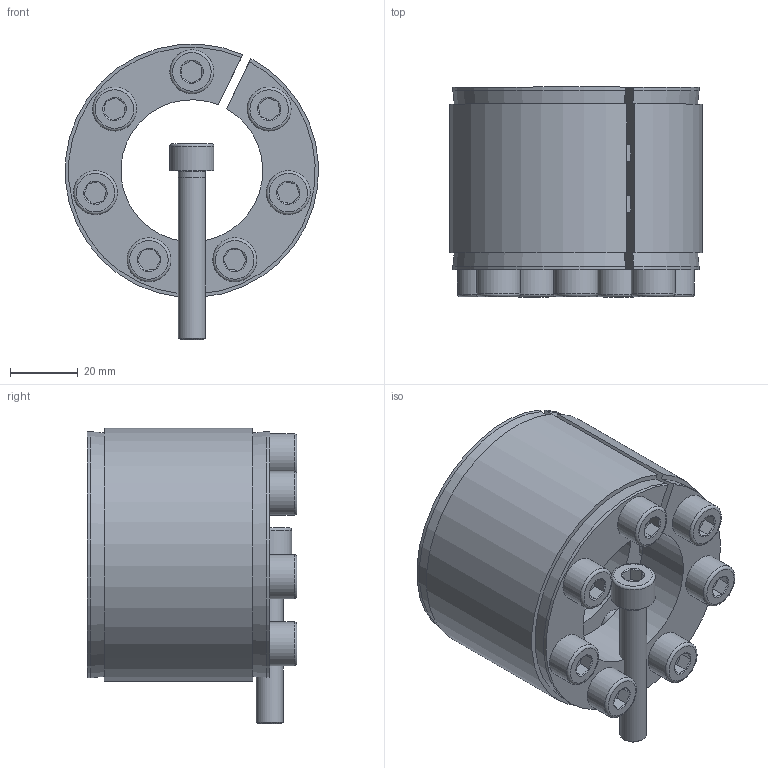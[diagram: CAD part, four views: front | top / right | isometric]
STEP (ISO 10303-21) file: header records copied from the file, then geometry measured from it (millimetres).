
FILE_DESCRIPTION( ( 'Unknown' ), '1' );
FILE_NAME( 'C:/Dokumente und Einstellungen/Sven/Desktop/homepage/cad - homepage/KBS11/KBS 11 - 42 x 75.stp', 'Unknown', ( 'Unknown' ), ( 'Unknown' ), 'XStep 1.0', 'Unknown', ' ' );
FILE_SCHEMA( ( 'automotive_design' ) );
Length unit declared in the file: millimetre
Products named in the file (3): Assem1; KBS 11 - 42 x 75; ISO EN DIN 4762 M8x50
Bounding box: 74.81 x 62 x 87.41 mm (x, y, z)
Volume: 267420.2 mm3; surface area: 101277.8 mm2
Topology: 10 solids, 10 shells, 282 faces, 606 edges, 376 vertices
Faces by surface type: plane 116, cylinder 86, cone 64, torus 16
Full cylindrical faces by diameter (mm): 7 x8, 8 x58, 13 x8
Entity records: 2342 total; most frequent: CARTESIAN_POINT 377, DIRECTION 344, ORIENTED_EDGE 262, AXIS2_PLACEMENT_3D 152, EDGE_LOOP 140, EDGE_CURVE 131, VERTEX_POINT 101, FACE_OUTER_BOUND 93
